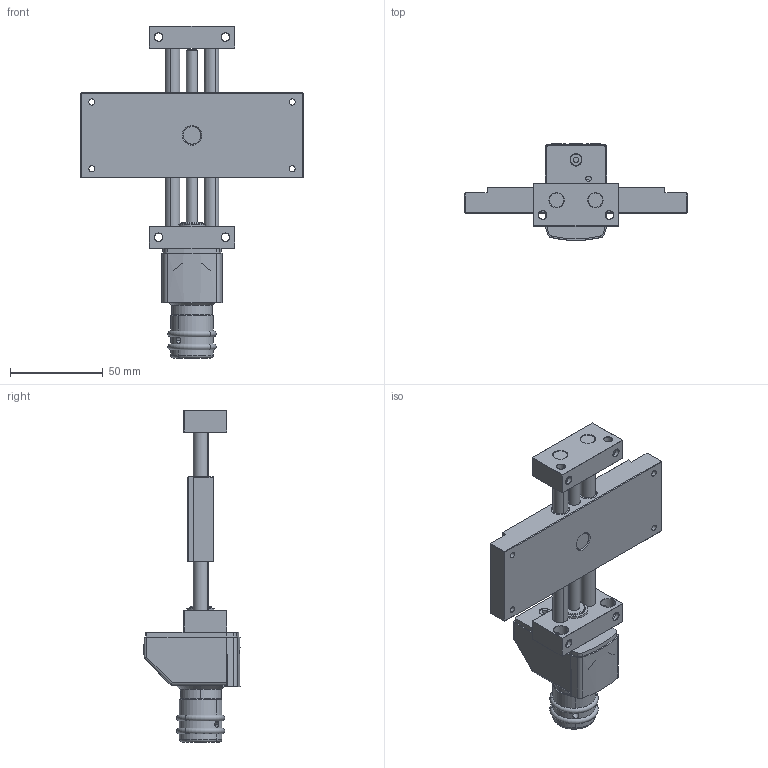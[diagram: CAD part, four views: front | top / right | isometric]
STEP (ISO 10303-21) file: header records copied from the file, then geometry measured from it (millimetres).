
FILE_DESCRIPTION (( 'STEP AP203' ), '1' );
FILE_NAME ('KT4808-L-PAE-Kreuztisch.STEP', '2016-01-15T17:06:30', ( '' ), ( '' ), 'SwSTEP 2.0', 'SolidWorks 2014', '' );
FILE_SCHEMA (( 'CONFIG_CONTROL_DESIGN' ));
Length unit declared in the file: millimetre
Products named in the file (4): PAE0812-DT-000-Elektronischer-Positionsanzeiger-Komplett_n_Standard; KT08-000-03-L-Schlitten-komplett; KT4808-L-PAE-Kreuztisch; PT4808-000-01-Festteil-PA(E)_n_Standard
Assembly tree (3 placements, depth 2):
  KT4808-L-PAE-Kreuztisch
    PT4808-000-01-Festteil-PA(E)_n_Standard
    PAE0812-DT-000-Elektronischer-Positionsanzeiger-Komplett_n_Standard
    KT08-000-03-L-Schlitten-komplett
Bounding box: 120 x 51.97 x 179.13 mm (x, y, z)
Volume: 152602.8 mm3; surface area: 52167.2 mm2
Topology: 3 solids, 8 shells, 882 faces, 2187 edges, 1397 vertices
Faces by surface type: plane 464, cylinder 255, cone 153, torus 6, sphere 4
Entity records: 27501 total; most frequent: CARTESIAN_POINT 5541, DIRECTION 4619, ORIENTED_EDGE 4358, EDGE_CURVE 2179, AXIS2_PLACEMENT_3D 1639, VERTEX_POINT 1397, VECTOR 1341, LINE 1341
